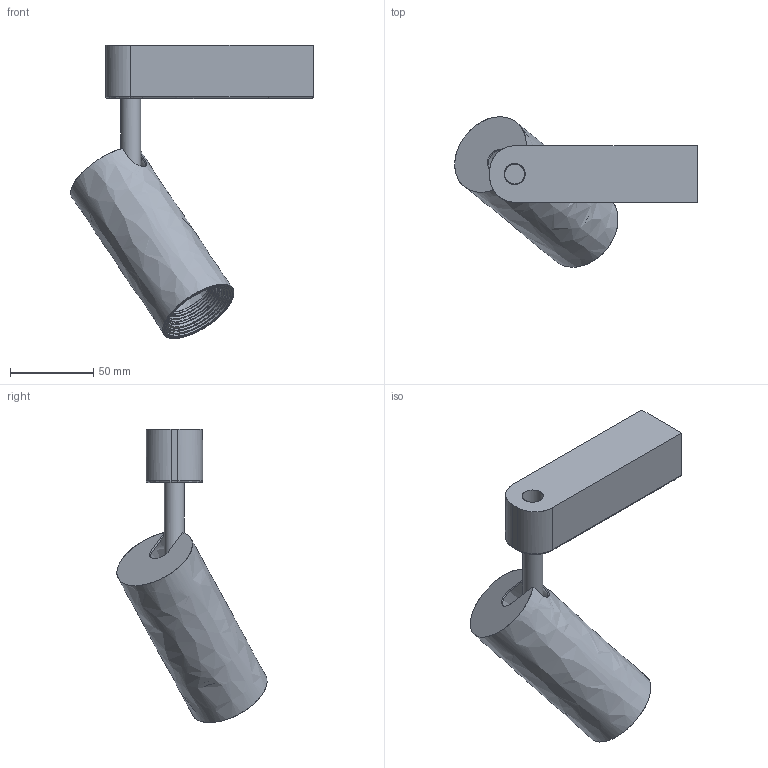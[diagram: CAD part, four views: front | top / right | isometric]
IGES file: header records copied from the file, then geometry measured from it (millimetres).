
Start section: SolidWorks IGES file using NURBS representation for surfaces
Global section: file name: Z:\Modele 3D_WWW\_KOLEKCJE WWW\PROFILE SYSTEM\PROFILE-IRIS-LED\PROFILE-IRIS-LED-12W-9000-9001-9002-9003\PROFILE-IRIS-LED-12W-9000-9001-9002-9003.IGS; native system: SolidWorks 2021; preprocessor: SolidWorks 2021; author: gabriela.tworek; date: 220203.120246; units: millimetre
Bounding box: 146.11 x 90.5 x 176.62 mm (x, y, z)
Surface area: 67388.8 mm2 (no closed solid volume)
Topology: 0 solids, 0 shells, 53 faces, 246 edges, 230 vertices
Faces by surface type: bspline 53
